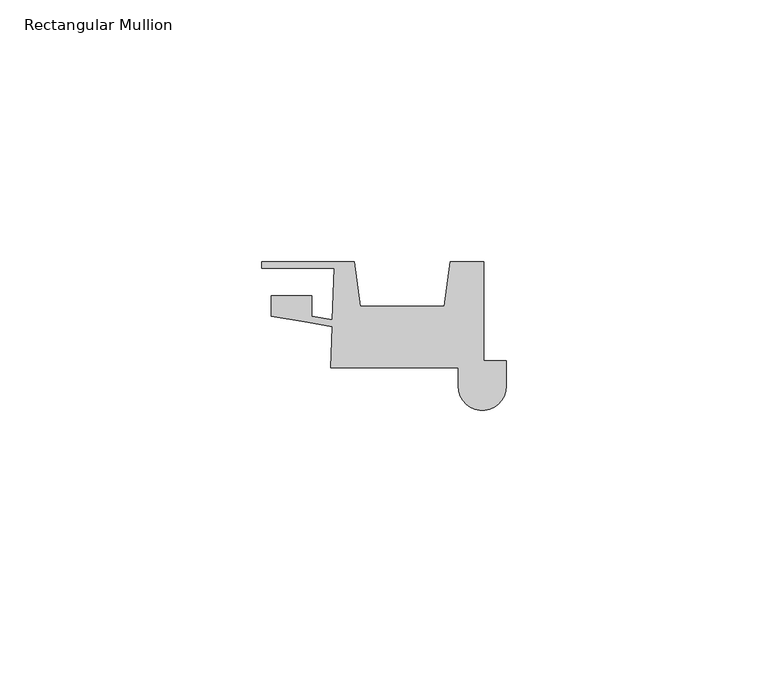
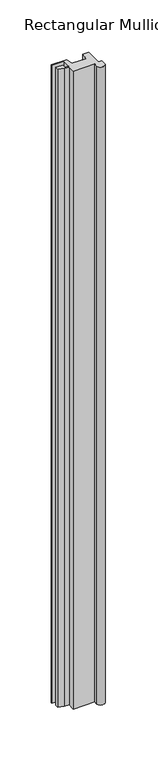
"""IFC4 building model written with IfcOpenShell, lengths in millimetres: member geometry, Rectangular Mullion : QuickPanel-Reveal_Multi-Angle-Outside-Corner-Trim-Right."""

import ifcopenshell
import ifcopenshell.guid

model = None  # the IFC model being written
_history = None  # IfcOwnerHistory: only IFC2X3 demands one
_inside = {}  # id of a spatial element -> (the spatial element, [elements in it])
_under = {}  # id of a project, library or spatial element -> (it, [spatial elements below it])
_declared = {}  # id of a project -> (the project, [libraries it declares])
_typed = {}  # id of a type object -> (the type object, [elements of that type])
_made_of = {}  # id of a material, layer set ... -> (it, [elements and type objects made of it])


def new_model(schema):
    """Start an empty IFC model of exactly this schema.

    Asked for "IFC4X3", IfcOpenShell would pick the latest addendum, in which some entities
    have other attributes; the version numbers below select the first issue.
    IFC2X3 requires an IfcOwnerHistory on every rooted entity: one is made here for all.
    """
    global model, _history
    if schema == "IFC4X3":
        model = ifcopenshell.file(schema_version=(4, 3, 0, 0))
    else:
        model = ifcopenshell.file(schema=schema)
    _inside.clear()
    _under.clear()
    _declared.clear()
    _typed.clear()
    _made_of.clear()
    _history = None
    if model.schema == "IFC2X3":
        org = make("IfcOrganization", Name="unknown")
        user = make(
            "IfcPersonAndOrganization",
            ThePerson=make("IfcPerson", FamilyName="unknown"),
            TheOrganization=org,
        )
        app = make(
            "IfcApplication",
            ApplicationDeveloper=org,
            Version="unknown",
            ApplicationFullName="unknown",
            ApplicationIdentifier="unknown",
        )
        _history = make(
            "IfcOwnerHistory",
            OwningUser=user,
            OwningApplication=app,
            ChangeAction="ADDED",
            CreationDate=0,
        )
    return model


def make(cls, **values):
    """One entity of the class cls with the attributes given. An attribute that is None is left unset."""
    return model.create_entity(
        cls, **{name: value for name, value in values.items() if value is not None}
    )


def rooted(cls, **values):
    """An entity with a GlobalId (a new one), such as an element, a storey or a relation."""
    return make(cls, GlobalId=ifcopenshell.guid.new(), OwnerHistory=_history, **values)


def si_unit(unit_type, name, prefix=None):
    """IfcSIUnit, for example si_unit("LENGTHUNIT", "METRE", prefix="MILLI")."""
    return make("IfcSIUnit", UnitType=unit_type, Prefix=prefix, Name=name)


def assignment(units):
    """IfcUnitAssignment: the units of a project."""
    return None if units is None else make("IfcUnitAssignment", Units=units)


def point(xyz):
    """IfcCartesianPoint."""
    return None if xyz is None else make("IfcCartesianPoint", Coordinates=xyz)


def direction(xyz):
    """IfcDirection."""
    return None if xyz is None else make("IfcDirection", DirectionRatios=xyz)


def frame(location, z_axis=None, x_axis=None):
    """IfcAxis2Placement3D, a coordinate frame: its origin and axes. An axis left out is left unset."""
    return make(
        "IfcAxis2Placement3D",
        Location=point(location),
        Axis=direction(z_axis),
        RefDirection=direction(x_axis),
    )


def frame_2d(location, x_axis=None):
    """IfcAxis2Placement2D, a coordinate frame in the plane: its origin and x axis."""
    return make(
        "IfcAxis2Placement2D", Location=point(location), RefDirection=direction(x_axis)
    )


def origin():
    """The frame at (0, 0, 0) with its axes left unset."""
    return frame((0.0, 0.0, 0.0))


def place(relative_to, where):
    """IfcLocalPlacement: puts the frame where relative to a parent placement (None: the world)."""
    return make(
        "IfcLocalPlacement", PlacementRelTo=relative_to, RelativePlacement=where
    )


def context(
    kind, dimensions, precision=None, world=None, true_north=None, identifier=None
):
    """IfcGeometricRepresentationContext, for example the 3D "Model" context."""
    return make(
        "IfcGeometricRepresentationContext",
        ContextIdentifier=identifier,
        ContextType=kind,
        CoordinateSpaceDimension=dimensions,
        Precision=precision,
        WorldCoordinateSystem=world,
        TrueNorth=true_north,
    )


def project(units=None, contexts=None):
    """IfcProject with its units and contexts."""
    return rooted(
        "IfcProject",
        Name="project",
        RepresentationContexts=contexts,
        UnitsInContext=assignment(units),
    )


def spatial(cls, under=None, at=None, **own):
    """A site, building, storey or space (cls), placed at a placement, below another one or the project."""
    s = rooted(cls, ObjectPlacement=at, **own)
    if under is not None:
        _under.setdefault(under.id(), (under, []))[1].append(s)
    return s


def polyline(points):
    """IfcPolyline through the points."""
    return make("IfcPolyline", Points=[point(p) for p in points])


def circle_curve(where, radius):
    """IfcCircle in the frame where."""
    return make("IfcCircle", Position=where, Radius=radius)


def trimmed(basis, trim1, trim2, sense, master):
    """IfcTrimmedCurve: the piece of a basis curve between two trims."""
    return make(
        "IfcTrimmedCurve",
        BasisCurve=basis,
        Trim1=trim1,
        Trim2=trim2,
        SenseAgreement=sense,
        MasterRepresentation=master,
    )


def segment(curve, same_sense, transition):
    """IfcCompositeCurveSegment."""
    return make(
        "IfcCompositeCurveSegment",
        Transition=transition,
        SameSense=same_sense,
        ParentCurve=curve,
    )


def composite_curve(segments, self_intersect=None):
    """IfcCompositeCurve: segments joined end to end."""
    return make("IfcCompositeCurve", Segments=segments, SelfIntersect=self_intersect)


def outline(outer, holes=None, kind="AREA"):
    """IfcArbitraryClosedProfileDef: a profile drawn as a closed curve; with holes, ...WithVoids."""
    if holes is None:
        return make("IfcArbitraryClosedProfileDef", ProfileType=kind, OuterCurve=outer)
    return make(
        "IfcArbitraryProfileDefWithVoids",
        ProfileType=kind,
        OuterCurve=outer,
        InnerCurves=holes,
    )


def extrude(swept, where, along, depth):
    """IfcExtrudedAreaSolid: the profile swept, set in the frame where, extruded along a direction by depth."""
    return make(
        "IfcExtrudedAreaSolid",
        SweptArea=swept,
        Position=where,
        ExtrudedDirection=direction(along),
        Depth=depth,
    )


def shape(context_of_items, identifier, shape_type, items):
    """IfcShapeRepresentation: the items that make up one representation, for example the "Body"."""
    return make(
        "IfcShapeRepresentation",
        ContextOfItems=context_of_items,
        RepresentationIdentifier=identifier,
        RepresentationType=shape_type,
        Items=items,
    )


def source(mapping_origin, context_of_items, identifier, shape_type, items):
    """IfcRepresentationMap: a shape defined once, which mapped items show again and again."""
    return make(
        "IfcRepresentationMap",
        MappingOrigin=mapping_origin,
        MappedRepresentation=shape(context_of_items, identifier, shape_type, items),
    )


def transform(
    local_origin,
    x_axis=None,
    y_axis=None,
    z_axis=None,
    scale=None,
    scale2=None,
    scale3=None,
    uniform=True,
):
    """IfcCartesianTransformationOperator3D, or its non-uniform kind. x_axis, y_axis, z_axis: its Axis1, 2, 3."""
    if uniform:
        return make(
            "IfcCartesianTransformationOperator3D",
            Axis1=direction(x_axis),
            Axis2=direction(y_axis),
            LocalOrigin=point(local_origin),
            Scale=scale,
            Axis3=direction(z_axis),
        )
    return make(
        "IfcCartesianTransformationOperator3DnonUniform",
        Axis1=direction(x_axis),
        Axis2=direction(y_axis),
        LocalOrigin=point(local_origin),
        Scale=scale,
        Axis3=direction(z_axis),
        Scale2=scale2,
        Scale3=scale3,
    )


def mapped(mapping_source, mapping_target):
    """IfcMappedItem: shows the shape of a source again, moved by a transform."""
    return make(
        "IfcMappedItem", MappingSource=mapping_source, MappingTarget=mapping_target
    )


def made_of(thing, what):
    """Note that an element or type object is made of a material, layer set ...; save() writes the relation."""
    if what is not None:
        _made_of.setdefault(what.id(), (what, []))[1].append(thing)
    return thing


def element(
    cls,
    number,
    at=None,
    inside=None,
    cuts=None,
    type_object=None,
    material=None,
    context=None,
    identifier="Body",
    shape_type=None,
    held_by="IfcProductDefinitionShape",
    body=None,
    shapes=None,
    **own,
):
    """One element of the class cls, such as IfcWall. Its Tag is "e" and its number.

    at: its placement. inside: the storey or other place that contains it. cuts: it is an
    opening in that element (IfcRelVoidsElement). A single representation is given by context,
    identifier, shape_type and body (its items); several are given by shapes. held_by: the class
    of the entity that holds the representations. save() writes the other relations.
    """
    e = rooted(cls, Tag="e%d" % number, ObjectPlacement=at, **own)
    if body is not None:
        shapes = [shape(context, identifier, shape_type, body)]
    if shapes is not None:
        e.Representation = make(held_by, Representations=shapes)
    if inside is not None:
        _inside.setdefault(inside.id(), (inside, []))[1].append(e)
    if cuts is not None:
        rooted(
            "IfcRelVoidsElement", RelatingBuildingElement=cuts, RelatedOpeningElement=e
        )
    if type_object is not None:
        _typed.setdefault(type_object.id(), (type_object, []))[1].append(e)
    return made_of(e, material)


def aggregate(whole, parts):
    """IfcRelAggregates: a whole, such as a stair, and the parts it consists of."""
    return rooted("IfcRelAggregates", RelatingObject=whole, RelatedObjects=parts)


def save(model, path):
    """Write the relations noted so far, then the file.

    IfcRelAggregates (storeys below a building ...), IfcRelContainedInSpatialStructure (elements
    in a storey), IfcRelDefinesByType, IfcRelAssociatesMaterial and IfcRelDeclares: one each for
    every whole, place, type object, material and project.
    """
    for whole, parts in _under.values():
        aggregate(whole, parts)
    for where, things in _inside.values():
        rooted(
            "IfcRelContainedInSpatialStructure",
            RelatedElements=things,
            RelatingStructure=where,
        )
    for kind, things in _typed.values():
        rooted("IfcRelDefinesByType", RelatedObjects=things, RelatingType=kind)
    for what, things in _made_of.values():
        rooted("IfcRelAssociatesMaterial", RelatedObjects=things, RelatingMaterial=what)
    for by, libraries in _declared.values():
        rooted("IfcRelDeclares", RelatingContext=by, RelatedDefinitions=libraries)
    model.write(path)


def rectangular_mullion_f8fcbe93(model_context):
    return source(origin(), model_context, "Body", "SweptSolid", [
        extrude(outline(composite_curve([segment(polyline([(-33.5174141, -8.095605), (-33.2416678, -0.1992641), (-38.4919487, 0.7008023), (-44.9272813, 1.8040245), (-44.9272813, 5.6493034), (-37.1825082, 5.6493034), (-37.1825082, 1.7648465), (-33.1969393, 1.0815922), (-32.8530122, 10.9303752), (-46.7093657, 10.9303752), (-46.7093657, 12.1803727), (-29.060393, 12.1803727), (-27.8716753, 3.7222065), (-11.8585488, 3.7222065), (-10.6698311, 12.1803727), (-4.2600515, 12.1803727), (-4.2600515, -6.6995181), (0.0, -6.6995181), (0.0, -11.6334034)]), True, "CONTINUOUS"), segment(trimmed(circle_curve(frame_2d((-4.572, -11.6334034)), 4.572), [point((0.0, -11.6334034))], [point((-9.144, -11.6334034))], False, "CARTESIAN"), True, "CONTINUOUS"), segment(polyline([(-9.144, -11.6334034), (-9.144, -8.095605), (-33.5174141, -8.095605)]), True, "CONTINUOUS")], self_intersect=False)), frame((0.0, 0.0, -763.2962426), z_axis=(0.0, 0.0, 1.0), x_axis=(1.0, 0.0, 0.0)), (0.0, 0.0, 1.0), 763.2962426),
    ])


if __name__ == "__main__":
    model = new_model("IFC4")
    model_context = context("Model", 3, world=origin())
    ifc_project = project(units=[si_unit("LENGTHUNIT", "METRE", prefix="MILLI")], contexts=[model_context])
    site = spatial("IfcSite", under=ifc_project)
    building = spatial("IfcBuilding", under=site)
    placement = place(None, origin())
    rectangular_mullion_shape = rectangular_mullion_f8fcbe93(model_context)
    element("IfcMember", 1, ObjectType="Rectangular Mullion : QuickPanel-Reveal_Multi-Angle-Outside-Corner-Trim-Right", at=placement, inside=building, context=model_context, shape_type="MappedRepresentation", body=[
        mapped(rectangular_mullion_shape, transform((0.0, 0.0, 0.0), x_axis=(1.0, 0.0, 0.0), y_axis=(0.0, 1.0, 0.0), z_axis=(0.0, 0.0, 1.0))),
    ])
    save(model, "model.ifc")
